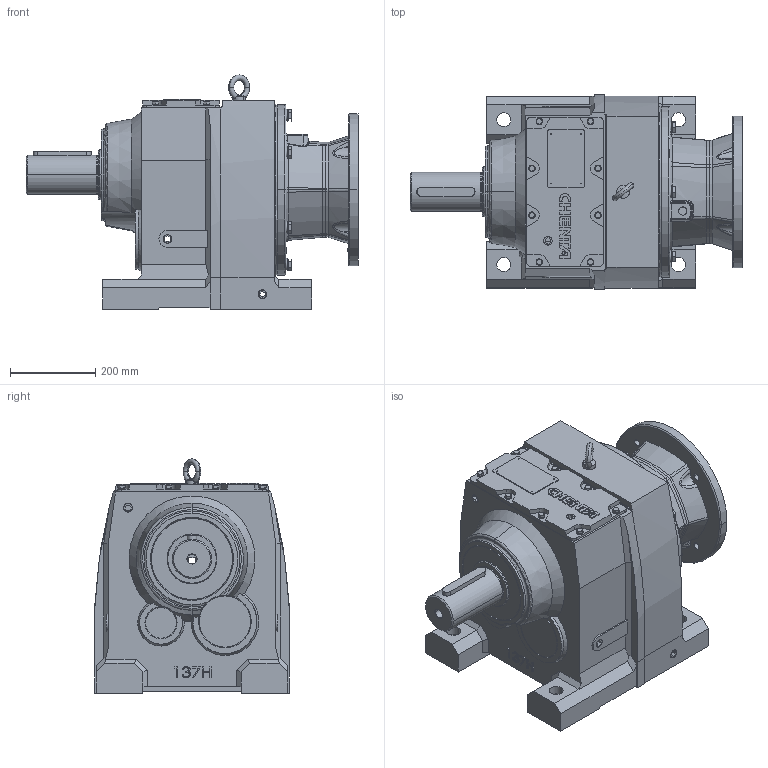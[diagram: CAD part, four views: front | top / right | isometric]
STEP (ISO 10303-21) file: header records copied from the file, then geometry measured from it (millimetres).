
FILE_DESCRIPTION (( 'STEP AP203' ), '1' );
FILE_NAME ('WINL137-364-5TC.STEP', '2013-09-26T10:18:03', ( 'User' ), ( 'Chenta' ), 'SwSTEP 2.0', 'SolidWorks 2011', '' );
FILE_SCHEMA (( 'CONFIG_CONTROL_DESIGN' ));
Length unit declared in the file: millimetre
Products named in the file (1): WINL137-364-5TC
Bounding box: 779 x 457.17 x 549.8 mm (x, y, z)
Surface area: 1878662.9 mm2 (no closed solid volume)
Topology: 0 solids, 58 shells, 953 faces, 2852 edges, 1946 vertices
Faces by surface type: plane 525, cylinder 206, cone 128, bspline 72, torus 22
Entity records: 37979 total; most frequent: CARTESIAN_POINT 13066, ORIENTED_EDGE 4992, DIRECTION 4878, EDGE_CURVE 2852, VERTEX_POINT 1946, VECTOR 1688, LINE 1688, AXIS2_PLACEMENT_3D 1595
